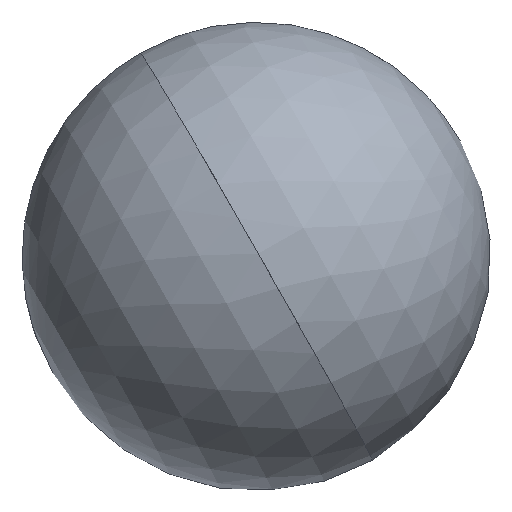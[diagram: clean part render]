
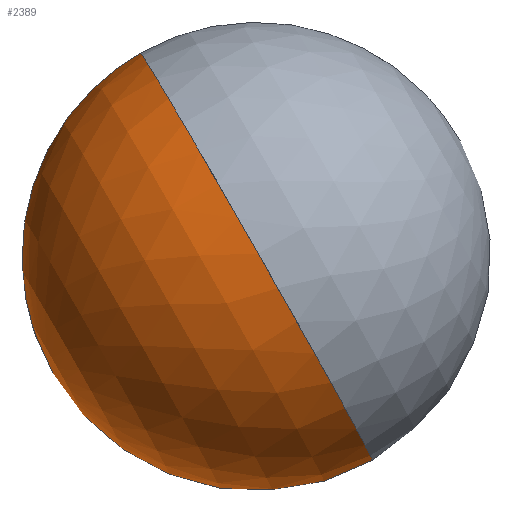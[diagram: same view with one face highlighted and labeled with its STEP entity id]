
A CAD part, front view. The second image highlights one B-rep face of the part: STEP entity #2389.
In plain terms, the highlighted spherical face has radius 60 mm.
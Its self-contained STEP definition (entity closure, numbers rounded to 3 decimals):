
#247 = FACE_OUTER_BOUND ( 'NONE', #2019, .T. ) ;
#252 = SPHERICAL_SURFACE ( 'NONE', #2952, 60. ) ;
#372 = CIRCLE ( 'NONE', #793, 60. ) ;
#379 = CIRCLE ( 'NONE', #796, 60. ) ;
#380 = CIRCLE ( 'NONE', #797, 24.119 ) ;
#793 = AXIS2_PLACEMENT_3D ( 'NONE', #3112, #3113, #3111 ) ;
#796 = AXIS2_PLACEMENT_3D ( 'NONE', #3116, #3115, #3161 ) ;
#797 = AXIS2_PLACEMENT_3D ( 'NONE', #3179, #3168, #3183 ) ;
#1252 = EDGE_CURVE ( 'NONE', #3739, #3777, #372, .T. ) ;
#1256 = EDGE_CURVE ( 'NONE', #3739, #3779, #379, .T. ) ;
#1258 = EDGE_CURVE ( 'NONE', #3779, #3777, #380, .T. ) ;
#2019 = EDGE_LOOP ( 'NONE', ( #3268, #3267, #3266 ) ) ;
#2389 = ADVANCED_FACE ( 'NONE', ( #247 ), #252, .T. ) ;
#2952 = AXIS2_PLACEMENT_3D ( 'NONE', #5037, #5029, #5028 ) ;
#3111 = DIRECTION ( 'NONE',  ( 1., 0., 0. ) ) ;
#3112 = CARTESIAN_POINT ( 'NONE',  ( 0., 60., 0. ) ) ;
#3113 = DIRECTION ( 'NONE',  ( 0., 0., 1. ) ) ;
#3115 = DIRECTION ( 'NONE',  ( 0., 0., -1. ) ) ;
#3116 = CARTESIAN_POINT ( 'NONE',  ( 0., 60., 0. ) ) ;
#3161 = DIRECTION ( 'NONE',  ( -1., 0., 0. ) ) ;
#3168 = DIRECTION ( 'NONE',  ( 0., -1., 0. ) ) ;
#3179 = CARTESIAN_POINT ( 'NONE',  ( 0., 5.061, 0. ) ) ;
#3183 = DIRECTION ( 'NONE',  ( 1., 0., 0. ) ) ;
#3266 = ORIENTED_EDGE ( 'NONE', *, *, #1258, .F. ) ;
#3267 = ORIENTED_EDGE ( 'NONE', *, *, #1252, .T. ) ;
#3268 = ORIENTED_EDGE ( 'NONE', *, *, #1256, .F. ) ;
#3739 = VERTEX_POINT ( 'NONE', #4681 ) ;
#3777 = VERTEX_POINT ( 'NONE', #4638 ) ;
#3779 = VERTEX_POINT ( 'NONE', #4635 ) ;
#4635 = CARTESIAN_POINT ( 'NONE',  ( 24.119, 5.061, 0. ) ) ;
#4638 = CARTESIAN_POINT ( 'NONE',  ( -24.119, 5.061, 0. ) ) ;
#4681 = CARTESIAN_POINT ( 'NONE',  ( 0., 120., 0. ) ) ;
#5028 = DIRECTION ( 'NONE',  ( -1., 0., 0. ) ) ;
#5029 = DIRECTION ( 'NONE',  ( 0., 0., -1. ) ) ;
#5037 = CARTESIAN_POINT ( 'NONE',  ( 0., 60., 0. ) ) ;
